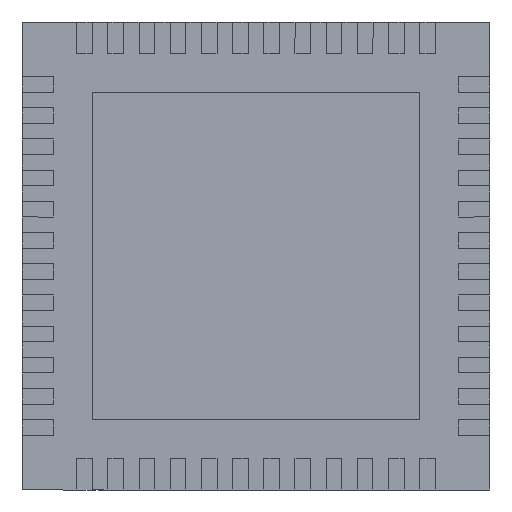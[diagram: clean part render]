
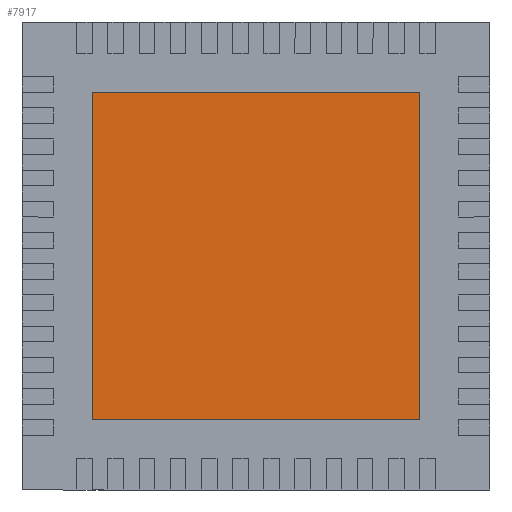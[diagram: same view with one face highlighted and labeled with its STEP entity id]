
A CAD part, front view. The second image highlights one B-rep face of the part: STEP entity #7917.
In plain terms, the highlighted planar face has unit normal (0, -1, 0).
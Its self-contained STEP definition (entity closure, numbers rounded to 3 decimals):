
#1264 = EDGE_CURVE ( 'NONE', #14647, #2100, #8704, .T. ) ;
#1554 = CARTESIAN_POINT ( 'NONE',  ( 2.1, 0., 2.1 ) ) ;
#1945 = VERTEX_POINT ( 'NONE', #11987 ) ;
#2100 = VERTEX_POINT ( 'NONE', #13483 ) ;
#2259 = DIRECTION ( 'NONE',  ( 0., 0., -1. ) ) ;
#2306 = VERTEX_POINT ( 'NONE', #8172 ) ;
#2331 = LINE ( 'NONE', #11314, #4657 ) ;
#2689 = FACE_OUTER_BOUND ( 'NONE', #8563, .T. ) ;
#3706 = PLANE ( 'NONE',  #8953 ) ;
#4029 = LINE ( 'NONE', #1554, #12611 ) ;
#4657 = VECTOR ( 'NONE', #2259, 1000. ) ;
#4914 = DIRECTION ( 'NONE',  ( 0., -1., 0. ) ) ;
#5063 = DIRECTION ( 'NONE',  ( -1., 0., 0. ) ) ;
#5279 = CARTESIAN_POINT ( 'NONE',  ( -2.1, 0., -2.1 ) ) ;
#5840 = VECTOR ( 'NONE', #10994, 1000. ) ;
#6215 = EDGE_CURVE ( 'NONE', #1945, #2306, #4029, .T. ) ;
#7821 = EDGE_CURVE ( 'NONE', #2306, #14647, #2331, .T. ) ;
#7917 = ADVANCED_FACE ( 'NONE', ( #2689 ), #3706, .T. ) ;
#8172 = CARTESIAN_POINT ( 'NONE',  ( -2.1, 0., 2.1 ) ) ;
#8563 = EDGE_LOOP ( 'NONE', ( #10196, #14416, #8934, #14046 ) ) ;
#8704 = LINE ( 'NONE', #9788, #9236 ) ;
#8934 = ORIENTED_EDGE ( 'NONE', *, *, #10455, .T. ) ;
#8953 = AXIS2_PLACEMENT_3D ( 'NONE', #12906, #4914, #12952 ) ;
#9236 = VECTOR ( 'NONE', #9745, 1000. ) ;
#9745 = DIRECTION ( 'NONE',  ( 1., 0., 0. ) ) ;
#9788 = CARTESIAN_POINT ( 'NONE',  ( 2.1, 0., -2.1 ) ) ;
#10196 = ORIENTED_EDGE ( 'NONE', *, *, #7821, .T. ) ;
#10455 = EDGE_CURVE ( 'NONE', #2100, #1945, #14198, .T. ) ;
#10994 = DIRECTION ( 'NONE',  ( 0., 0., 1. ) ) ;
#11314 = CARTESIAN_POINT ( 'NONE',  ( -2.1, 0., -2.1 ) ) ;
#11964 = CARTESIAN_POINT ( 'NONE',  ( 2.1, 0., -2.1 ) ) ;
#11987 = CARTESIAN_POINT ( 'NONE',  ( 2.1, 0., 2.1 ) ) ;
#12611 = VECTOR ( 'NONE', #5063, 1000. ) ;
#12906 = CARTESIAN_POINT ( 'NONE',  ( 0., 0., 0. ) ) ;
#12952 = DIRECTION ( 'NONE',  ( 0., 0., -1. ) ) ;
#13483 = CARTESIAN_POINT ( 'NONE',  ( 2.1, 0., -2.1 ) ) ;
#14046 = ORIENTED_EDGE ( 'NONE', *, *, #6215, .T. ) ;
#14198 = LINE ( 'NONE', #11964, #5840 ) ;
#14416 = ORIENTED_EDGE ( 'NONE', *, *, #1264, .T. ) ;
#14647 = VERTEX_POINT ( 'NONE', #5279 ) ;
